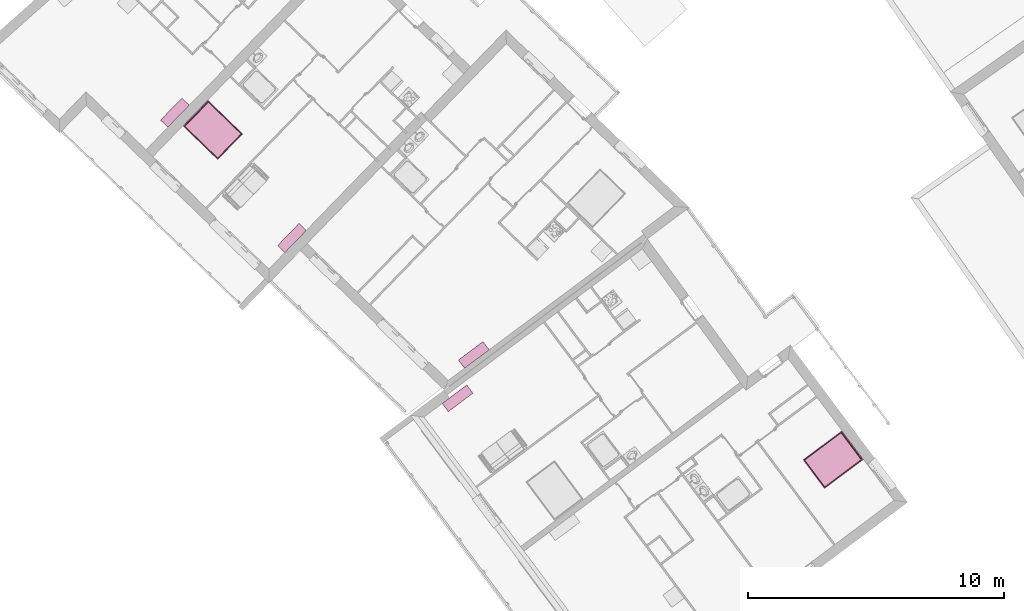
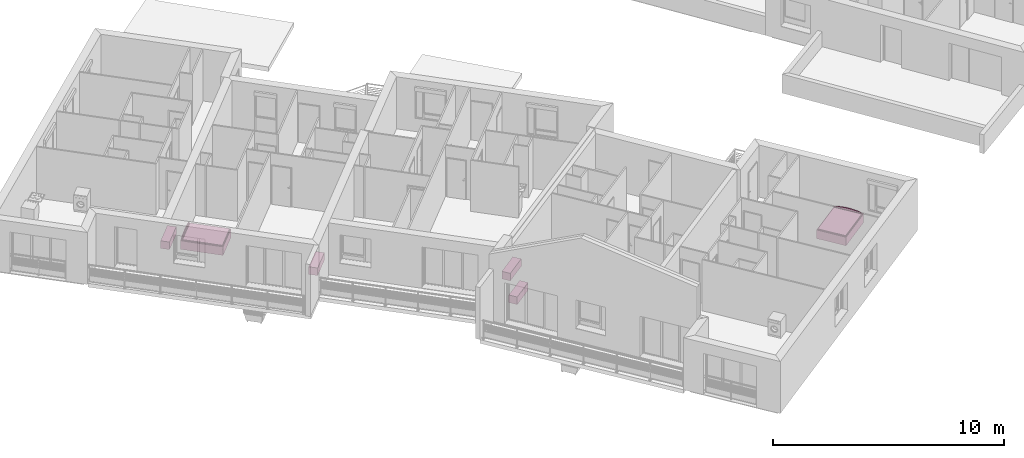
# One storey, part 97 of 121: 6 furnishings.
"""IFC2X3 building model written with IfcOpenShell, lengths in metres."""

from ifc_helpers import new_model, entity, si_unit, converted_unit, derived_unit, money_unit, direction, frame, origin_with_axes, place, context, subcontext, project, spatial, open_shell, faceted_brep, surface_model, source, transform, mapped, type_object, element, save


model = new_model("IFC2X3")

# Units and contexts
model_context = context("Model", 3, precision=1e-05, world=origin_with_axes(), true_north=direction((0.0, 1.0)))
body_context = subcontext(model_context, "Body", "Model", "MODEL_VIEW")
ifc_project = project(units=[si_unit("LENGTHUNIT", "METRE"), si_unit("AREAUNIT", "SQUARE_METRE"), si_unit("VOLUMEUNIT", "CUBIC_METRE"), converted_unit("PLANEANGLEUNIT", "DEGREE", entity("IfcPlaneAngleMeasure", 0.0174532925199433), si_unit("PLANEANGLEUNIT", "RADIAN"), dimensions=[0, 0, 0, 0, 0, 0, 0]), money_unit("CHF"), converted_unit("TIMEUNIT", "Year", entity("IfcTimeMeasure", 31557600.0), si_unit("TIMEUNIT", "SECOND"), dimensions=[0, 0, 1, 0, 0, 0, 0]), si_unit("MASSUNIT", "GRAM", prefix="KILO"), si_unit("THERMODYNAMICTEMPERATUREUNIT", "DEGREE_CELSIUS"), si_unit("LUMINOUSINTENSITYUNIT", "LUMEN"), si_unit("ENERGYUNIT", "JOULE", prefix="MEGA"), derived_unit("THERMALCONDUCTANCEUNIT", [(si_unit("POWERUNIT", "WATT"), 1), (si_unit("LENGTHUNIT", "METRE"), -1), (si_unit("THERMODYNAMICTEMPERATUREUNIT", "KELVIN"), -1)]), derived_unit("SPECIFICHEATCAPACITYUNIT", [(si_unit("ENERGYUNIT", "JOULE"), 1), (si_unit("MASSUNIT", "GRAM", prefix="KILO"), -1), (si_unit("THERMODYNAMICTEMPERATUREUNIT", "KELVIN"), -1)]), derived_unit("MASSDENSITYUNIT", [(si_unit("MASSUNIT", "GRAM", prefix="KILO"), 1), (si_unit("VOLUMEUNIT", "CUBIC_METRE"), -1)])], contexts=[model_context])

# Site, building, storey
site_placement = place(None, origin_with_axes())
site = spatial("IfcSite", under=ifc_project, at=site_placement, Name="Site", CompositionType="ELEMENT")
building_placement = place(site_placement, origin_with_axes())
building = spatial("IfcBuilding", under=site, at=building_placement, Name="Bâtiment", CompositionType="ELEMENT")
storey_placement = place(building_placement, frame((0.0, 0.0, 2.75), z_axis=(0.0, 0.0, 1.0), x_axis=(1.0, 0.0, 0.0)))
storey = spatial("IfcBuildingStorey", under=building, at=storey_placement, Name="Etage 1", CompositionType="ELEMENT", Elevation=2.75)

# Furnishings
furnishing_element_type_1 = type_object("IfcFurnishingElementType", Name="Meuble à plans 27")
shared_shape_1 = source(origin_with_axes(), body_context, "Body", "SurfaceModel", [
    surface_model("IfcShellBasedSurfaceModel", [(-1.18, 0.02, 0.0), (-1.18, 0.4, 0.0), (-0.02, 0.4, 0.0), (-0.02, 0.02, 0.0)], [open_shell([[[0, 1, 2, 3]]])]),
    faceted_brep([(0.0, 0.4, 0.0), (0.0, 0.0, 0.0), (-1.2, 0.0, 0.0), (-1.2, 0.4, 0.0), (0.0, 0.4, 0.4), (0.0, 0.0, 0.4), (-1.2, 0.0, 0.4), (-0.02, 0.0, 0.02), (-1.18, 0.0, 0.02), (-1.18, 0.0, 0.38), (-0.02, 0.0, 0.38), (-1.2, 0.4, 0.4), (-0.02, 0.4, 0.01999999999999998), (-0.02, 0.4, 0.38), (-1.18, 0.4, 0.38), (-1.18, 0.4, 0.01999999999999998)], [[[0, 1, 2, 3]], [[4, 5, 1, 0]], [[1, 5, 6, 2], [7, 8, 9, 10]], [[3, 2, 6, 11]], [[0, 3, 11, 4], [12, 13, 14, 15]], [[11, 6, 5, 4]], [[15, 8, 7, 12]], [[14, 9, 8, 15]], [[13, 10, 9, 14]], [[12, 7, 10, 13]]]),
    faceted_brep([(-1.18, 0.4, 0.01999999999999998), (-1.18, 0.4, 0.38), (-0.02, 0.4, 0.38), (-0.02, 0.4, 0.01999999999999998), (-1.18, 0.38, 0.01999999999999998), (-1.18, 0.3800000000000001, 0.38), (-0.02, 0.3800000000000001, 0.38), (-0.02, 0.38, 0.01999999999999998)], [[[0, 1, 2, 3]], [[0, 4, 5, 1]], [[1, 5, 6, 2]], [[2, 6, 7, 3]], [[3, 7, 4, 0]], [[7, 6, 5, 4]]]),
    faceted_brep([(-1.18, 0.0, 0.02), (-1.18, 0.38, 0.02), (-0.02, 0.38, 0.02), (-0.02, 0.0, 0.02), (-1.18, 0.0, 0.3750000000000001), (-1.18, 0.38, 0.3750000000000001), (-0.02, 0.38, 0.3750000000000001), (-0.02, 0.0, 0.3750000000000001)], [[[0, 1, 2, 3]], [[0, 4, 5, 1]], [[1, 5, 6, 2]], [[2, 6, 7, 3]], [[3, 7, 4, 0]], [[7, 6, 5, 4]]]),
])
furnishing_placement = place(storey_placement, frame((9530.692202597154, -1075.765288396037, 57.92018680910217), z_axis=(0.0, 0.0, 1.0), x_axis=(0.8011623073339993, 0.5984471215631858, 0.0)))
element("IfcFurnishingElement", 1, at=furnishing_placement, inside=storey, type_object=furnishing_element_type_1, Name="Obj.-376", context=body_context, shape_type="MappedRepresentation", body=[
    mapped(shared_shape_1, transform((0.0, 0.0, 0.0))),
])
shared_shape_2 = source(origin_with_axes(), body_context, "Body", "SurfaceModel", [
    surface_model("IfcShellBasedSurfaceModel", [(1.18, 0.02, 0.0), (0.02, 0.02, 0.0), (0.02, 0.4, 0.0), (1.18, 0.4, 0.0)], [open_shell([[[0, 1, 2, 3]]])]),
    faceted_brep([(0.0, 0.4, 0.0), (1.2, 0.4, 0.0), (1.2, 0.0, 0.0), (0.0, 0.0, 0.0), (0.0, 0.4, 0.4), (1.2, 0.4, 0.4), (0.02, 0.4, 0.01999999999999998), (1.18, 0.4, 0.01999999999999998), (1.18, 0.4, 0.38), (0.02, 0.4, 0.38), (1.2, 0.0, 0.4), (0.0, 0.0, 0.4), (0.02, 0.0, 0.02), (0.02, 0.0, 0.38), (1.18, 0.0, 0.38), (1.18, 0.0, 0.02)], [[[0, 1, 2, 3]], [[0, 4, 5, 1], [6, 7, 8, 9]], [[1, 5, 10, 2]], [[3, 2, 10, 11], [12, 13, 14, 15]], [[4, 0, 3, 11]], [[5, 4, 11, 10]], [[7, 6, 12, 15]], [[8, 7, 15, 14]], [[9, 8, 14, 13]], [[6, 9, 13, 12]]]),
    faceted_brep([(1.18, 0.4, 0.01999999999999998), (0.02, 0.4, 0.01999999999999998), (0.02, 0.4, 0.38), (1.18, 0.4, 0.38), (1.18, 0.38, 0.01999999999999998), (0.02, 0.38, 0.01999999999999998), (0.02, 0.3800000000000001, 0.38), (1.18, 0.3800000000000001, 0.38)], [[[0, 1, 2, 3]], [[1, 0, 4, 5]], [[2, 1, 5, 6]], [[3, 2, 6, 7]], [[0, 3, 7, 4]], [[5, 4, 7, 6]]]),
    faceted_brep([(1.18, 0.0, 0.02), (0.02, 0.0, 0.02), (0.02, 0.38, 0.02), (1.18, 0.38, 0.02), (1.18, 0.0, 0.3750000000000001), (0.02, 0.0, 0.3750000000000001), (0.02, 0.38, 0.3750000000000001), (1.18, 0.38, 0.3750000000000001)], [[[0, 1, 2, 3]], [[1, 0, 4, 5]], [[2, 1, 5, 6]], [[3, 2, 6, 7]], [[0, 3, 7, 4]], [[5, 4, 7, 6]]]),
])
for number, where, z_axis, x_axis, name in (
    (2, (9531.087260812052, -1073.74771034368, 57.92018680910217), (0.0, 0.0, 1.0), (-0.8011628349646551, -0.598446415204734, 0.0), "Obj.-376"),
    (3, (9523.890442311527, -1069.123414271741, 57.92018680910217), (0.0, 0.0, 1.0), (-0.6958617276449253, -0.7181757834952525, 0.0), "Obj.-376"),
    (4, (9519.311452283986, -1064.22088793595, 57.92018680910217), (0.0, 0.0, 1.0), (-0.6958610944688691, -0.7181763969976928, 0.0), "Obj.-376"),
):
    element("IfcFurnishingElement", number, at=place(storey_placement, frame(where, z_axis=z_axis, x_axis=x_axis)), inside=storey, type_object=furnishing_element_type_1, Name=name, context=body_context, shape_type="MappedRepresentation", body=[
        mapped(shared_shape_2, transform((0.0, 0.0, 0.0))),
    ])
furnishing_element_type_2 = type_object("IfcFurnishingElementType", Name="Lit double 01")
shared_shape_3 = source(origin_with_axes(), body_context, "Body", "Brep", [
    faceted_brep([(0.0, 1.895, 0.0), (1.4, 1.895, 0.0), (1.4, 1.865, 0.0), (0.0, 1.865, 0.0), (0.0, 1.895, 0.48), (0.276362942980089, 1.895, 0.5438448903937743), (0.558179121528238, 1.895, 0.5759741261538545), (0.8418208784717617, 1.895, 0.5759741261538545), (1.123637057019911, 1.895, 0.5438448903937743), (1.4, 1.895, 0.48), (1.4, 1.895, 0.4799), (1.4, 1.865, 0.4799), (1.4, 1.865, 0.48), (1.123637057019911, 1.865, 0.5438448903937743), (0.8418208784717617, 1.865, 0.5759741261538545), (0.558179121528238, 1.865, 0.5759741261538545), (0.276362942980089, 1.865, 0.5438448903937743), (0.0, 1.865, 0.48)], [[[0, 1, 2, 3]], [[0, 4, 5, 6, 7, 8, 9, 10, 1]], [[1, 10, 11, 2]], [[3, 2, 11, 12, 13, 14, 15, 16, 17]], [[4, 0, 3, 17]], [[5, 4, 17, 16]], [[6, 5, 16, 15]], [[7, 6, 15, 14]], [[8, 7, 14, 13]], [[9, 8, 13, 12]], [[10, 9, 12, 11]]]),
    faceted_brep([(1.4, 1.9, 0.48), (1.399999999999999, 1.9, 0.4999999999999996), (1.399999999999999, 1.86, 0.4999999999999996), (1.4, 1.86, 0.48), (1.123637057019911, 1.9, 0.5438448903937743), (0.8418208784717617, 1.9, 0.5759741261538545), (0.558179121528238, 1.9, 0.5759741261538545), (0.276362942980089, 1.9, 0.5438448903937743), (0.0, 1.9, 0.48), (0.0, 1.9, 0.4999), (0.0, 1.9, 0.5), (0.276362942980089, 1.9, 0.5638448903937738), (0.5581791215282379, 1.9, 0.5959741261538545), (0.8418208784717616, 1.9, 0.5959741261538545), (1.123637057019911, 1.9, 0.5638448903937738), (1.123637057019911, 1.86, 0.5638448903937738), (0.8418208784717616, 1.86, 0.5959741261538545), (0.5581791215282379, 1.86, 0.5959741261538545), (0.276362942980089, 1.86, 0.5638448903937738), (0.0, 1.86, 0.5), (0.0, 1.86, 0.4999), (0.0, 1.86, 0.48), (0.276362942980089, 1.86, 0.5438448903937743), (0.558179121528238, 1.86, 0.5759741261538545), (0.8418208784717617, 1.86, 0.5759741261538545), (1.123637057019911, 1.86, 0.5438448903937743)], [[[0, 1, 2, 3]], [[0, 4, 5, 6, 7, 8, 9, 10, 11, 12, 13, 14, 1]], [[1, 14, 15, 2]], [[3, 2, 15, 16, 17, 18, 19, 20, 21, 22, 23, 24, 25]], [[4, 0, 3, 25]], [[5, 4, 25, 24]], [[6, 5, 24, 23]], [[7, 6, 23, 22]], [[8, 7, 22, 21]], [[9, 8, 21, 20]], [[10, 9, 20, 19]], [[11, 10, 19, 18]], [[12, 11, 18, 17]], [[13, 12, 17, 16]], [[14, 13, 16, 15]]]),
    faceted_brep([(1.4, 0.0, 0.0), (0.0, 0.0, 0.0), (0.0, 1.865, 0.0), (1.4, 1.865, 0.0), (1.4, 0.0, 0.3), (0.0, 0.0, 0.3), (0.0, 1.865, 0.3), (1.4, 1.865, 0.3)], [[[0, 1, 2, 3]], [[1, 0, 4, 5]], [[2, 1, 5, 6]], [[3, 2, 6, 7]], [[0, 3, 7, 4]], [[5, 4, 7, 6]]]),
    faceted_brep([(0.0, 0.02, 0.43), (0.0, 1.845, 0.43), (0.002679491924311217, 1.855, 0.43), (0.009999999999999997, 1.862320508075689, 0.43), (0.02, 1.865, 0.43), (1.38, 1.865, 0.43), (1.39, 1.862320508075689, 0.43), (1.397320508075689, 1.855, 0.43), (1.4, 1.845, 0.43), (1.4, 0.02, 0.43), (1.397320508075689, 0.009999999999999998, 0.43), (1.39, 0.002679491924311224, 0.43), (1.38, 0.0, 0.43), (0.01999999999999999, 0.0, 0.43), (0.009999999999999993, 0.002679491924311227, 0.43), (0.002679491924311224, 0.01, 0.43), (-3.895163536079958e-10, 0.02000000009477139, 0.44), (-3.895163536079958e-10, 1.845000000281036, 0.44), (0.002679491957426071, 1.855000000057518, 0.44), (0.0100000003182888, 1.862320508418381, 0.44), (0.02000000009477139, 1.864999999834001, 0.44), (1.380000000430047, 1.864999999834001, 0.44), (1.39000000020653, 1.862320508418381, 0.44), (1.39732050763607, 1.855000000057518, 0.44), (1.399999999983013, 1.845000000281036, 0.44), (1.399999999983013, 0.02000000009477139, 0.44), (1.39732050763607, 0.0100000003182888, 0.44), (1.39000000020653, 0.002679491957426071, 0.44), (1.380000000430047, -3.895163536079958e-10, 0.44), (0.02000000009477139, -3.895163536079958e-10, 0.44), (0.0100000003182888, 0.002679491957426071, 0.44), (0.002679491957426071, 0.0100000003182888, 0.44), (0.002044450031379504, 0.02026915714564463, 0.4555291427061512), (0.002044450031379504, 1.844730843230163, 0.4555291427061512), (0.004512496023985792, 1.853941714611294, 0.4555291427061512), (0.01105828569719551, 1.860487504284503, 0.4555291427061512), (0.02026915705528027, 1.862955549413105, 0.4555291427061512), (1.379730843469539, 1.862955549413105, 0.4555291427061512), (1.388941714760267, 1.860487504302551, 0.4555291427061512), (1.395487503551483, 1.853941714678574, 0.4555291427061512), (1.397955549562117, 1.844730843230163, 0.4555291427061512), (1.397955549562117, 0.02026915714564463, 0.4555291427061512), (1.395487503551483, 0.01105828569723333, 0.4555291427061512), (1.388941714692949, 0.004512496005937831, 0.4555291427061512), (1.379730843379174, 0.002044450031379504, 0.4555291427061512), (0.02026915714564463, 0.002044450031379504, 0.4555291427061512), (0.01105828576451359, 0.004512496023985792, 0.4555291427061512), (0.004512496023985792, 0.01105828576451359, 0.4555291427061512), (0.01757359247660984, 0.02231360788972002, 0.4824264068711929), (0.01757359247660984, 1.842686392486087, 0.4824264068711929), (0.01843554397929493, 1.845903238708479, 0.4824264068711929), (0.01909676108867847, 1.846564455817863, 0.4824264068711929), (0.02231360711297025, 1.847426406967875, 0.4824264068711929), (1.377686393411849, 1.847426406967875, 0.4824264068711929), (1.380903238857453, 1.846564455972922, 0.4824264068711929), (1.381564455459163, 1.845903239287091, 0.4824264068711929), (1.382426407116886, 1.842686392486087, 0.4824264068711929), (1.382426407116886, 0.02231360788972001, 0.4824264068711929), (1.381564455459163, 0.01909676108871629, 0.4824264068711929), (1.380903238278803, 0.01843554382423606, 0.4824264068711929), (1.377686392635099, 0.01757359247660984, 0.4824264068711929), (0.02231360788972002, 0.01757359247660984, 0.4824264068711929), (0.01909676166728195, 0.01843554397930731, 0.4824264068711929), (0.01843554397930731, 0.01909676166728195, 0.4824264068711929), (0.02303225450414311, 0.02303225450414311, 0.4855779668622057), (0.04447085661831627, 0.04447085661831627, 0.4979555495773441), (0.04447085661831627, 1.820529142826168, 0.4979555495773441), (0.02303225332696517, 1.841967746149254, 0.48557796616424), (0.02000000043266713, 1.844999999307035, 0.4834338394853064), (1.35552914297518, 1.820529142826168, 0.4979555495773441), (1.376967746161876, 1.841967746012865, 0.4855779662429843), (1.380000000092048, 1.845000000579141, 0.4834338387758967), (1.35552914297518, 0.04447085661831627, 0.4979555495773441), (1.376967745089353, 0.02303225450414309, 0.4855779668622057), (1.379999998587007, 0.02000000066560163, 0.4834338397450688), (0.02000000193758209, 0.02000000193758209, 0.4834338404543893), (0.05999999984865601, 0.05999999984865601, 0.5000000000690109), (0.05999999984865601, 1.804999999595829, 0.5000000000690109), (1.33999999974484, 1.804999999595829, 0.5000000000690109), (1.33999999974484, 0.05999999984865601, 0.5000000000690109)], [[[0, 1, 2, 3, 4, 5, 6, 7, 8, 9, 10, 11, 12, 13, 14, 15]], [[1, 0, 16, 17]], [[2, 1, 17, 18]], [[3, 2, 18, 19]], [[4, 3, 19, 20]], [[5, 4, 20, 21]], [[6, 5, 21, 22]], [[7, 6, 22, 23]], [[8, 7, 23, 24]], [[9, 8, 24, 25]], [[10, 9, 25, 26]], [[11, 10, 26, 27]], [[12, 11, 27, 28]], [[13, 12, 28, 29]], [[14, 13, 29, 30]], [[15, 14, 30, 31]], [[0, 15, 31, 16]], [[17, 16, 32, 33]], [[18, 17, 33, 34]], [[19, 18, 34, 35]], [[20, 19, 35, 36]], [[21, 20, 36, 37]], [[22, 21, 37, 38]], [[23, 22, 38, 39]], [[24, 23, 39, 40]], [[25, 24, 40, 41]], [[26, 25, 41, 42]], [[27, 26, 42, 43]], [[28, 27, 43, 44]], [[29, 28, 44, 45]], [[30, 29, 45, 46]], [[31, 30, 46, 47]], [[16, 31, 47, 32]], [[33, 32, 48, 49]], [[34, 33, 49, 50]], [[35, 34, 50, 51]], [[36, 35, 51, 52]], [[37, 36, 52, 53]], [[38, 37, 53, 54]], [[39, 38, 54, 55]], [[40, 39, 55, 56]], [[41, 40, 56, 57]], [[42, 41, 57, 58]], [[43, 42, 58, 59]], [[44, 43, 59, 60]], [[45, 44, 60, 61]], [[46, 45, 61, 62]], [[47, 46, 62, 63]], [[32, 47, 63, 48]], [[49, 48, 64, 65, 66, 67]], [[50, 49, 67, 68]], [[51, 50, 68]], [[52, 51, 68, 67]], [[53, 52, 67, 66, 69, 70]], [[54, 53, 70, 71]], [[55, 54, 71]], [[56, 55, 71, 70]], [[57, 56, 70, 69, 72, 73]], [[58, 57, 73, 74]], [[59, 58, 74]], [[60, 59, 74, 73]], [[61, 60, 73, 72, 65, 64]], [[62, 61, 64, 75]], [[63, 62, 75]], [[48, 63, 75, 64]], [[66, 65, 76, 77]], [[69, 66, 77, 78]], [[72, 69, 78, 79]], [[65, 72, 79, 76]], [[78, 77, 76, 79]]]),
    faceted_brep([(0.0, 0.02000000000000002, 0.3099999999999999), (-3.895163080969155e-10, 0.02000000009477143, 0.2999999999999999), (0.002679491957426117, 0.01000000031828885, 0.2999999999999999), (0.002679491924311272, 0.01000000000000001, 0.3099999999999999), (0.0, 1.845, 0.3099999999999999), (-3.895163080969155e-10, 1.845000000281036, 0.2999999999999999), (0.002679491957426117, 1.855000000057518, 0.2999999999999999), (0.01000000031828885, 1.862320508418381, 0.2999999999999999), (0.02000000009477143, 1.864999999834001, 0.2999999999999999), (1.380000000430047, 1.864999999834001, 0.2999999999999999), (1.39000000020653, 1.862320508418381, 0.2999999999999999), (1.39732050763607, 1.855000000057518, 0.2999999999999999), (1.399999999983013, 1.845000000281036, 0.2999999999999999), (1.399999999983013, 0.02000000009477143, 0.2999999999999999), (1.39732050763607, 0.01000000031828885, 0.2999999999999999), (1.39000000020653, 0.002679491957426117, 0.2999999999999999), (1.380000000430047, -3.895163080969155e-10, 0.2999999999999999), (0.02000000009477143, -3.895163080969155e-10, 0.2999999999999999), (0.01000000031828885, 0.002679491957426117, 0.2999999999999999), (0.01000000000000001, 0.002679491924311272, 0.3099999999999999), (0.02000000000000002, 0.0, 0.3099999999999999), (1.38, 0.0, 0.3099999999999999), (1.39, 0.002679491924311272, 0.3099999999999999), (1.397320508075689, 0.01000000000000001, 0.3099999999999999), (1.4, 0.02000000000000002, 0.3099999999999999), (1.4, 1.845, 0.3099999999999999), (1.397320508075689, 1.855, 0.3099999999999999), (1.39, 1.862320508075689, 0.3099999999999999), (1.38, 1.865, 0.3099999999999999), (0.02000000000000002, 1.865, 0.3099999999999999), (0.01000000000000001, 1.862320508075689, 0.3099999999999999), (0.002679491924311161, 1.855, 0.3099999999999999)], [[[0, 1, 2, 3]], [[1, 0, 4, 5]], [[2, 1, 5, 6, 7, 8, 9, 10, 11, 12, 13, 14, 15, 16, 17, 18]], [[3, 2, 18, 19]], [[3, 19, 20, 21, 22, 23, 24, 25, 26, 27, 28, 29, 30, 31, 4, 0]], [[5, 4, 31, 6]], [[6, 31, 30, 7]], [[7, 30, 29, 8]], [[8, 29, 28, 9]], [[27, 10, 9, 28]], [[10, 27, 26, 11]], [[11, 26, 25, 12]], [[24, 13, 12, 25]], [[23, 14, 13, 24]], [[22, 15, 14, 23]], [[21, 16, 15, 22]], [[20, 17, 16, 21]], [[18, 17, 20, 19]]]),
    faceted_brep([(0.0, 0.02, 0.3099999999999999), (0.002679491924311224, 0.01, 0.3099999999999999), (0.002679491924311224, 0.01, 0.4299999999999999), (0.0, 0.02, 0.4299999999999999), (0.0, 1.845, 0.3099999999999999), (0.002679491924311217, 1.855, 0.3099999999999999), (0.009999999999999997, 1.862320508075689, 0.3099999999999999), (0.02, 1.865, 0.3099999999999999), (1.38, 1.865, 0.3099999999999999), (1.39, 1.862320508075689, 0.3099999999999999), (1.397320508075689, 1.855, 0.3099999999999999), (1.4, 1.845, 0.3099999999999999), (1.4, 0.02, 0.3099999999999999), (1.397320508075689, 0.009999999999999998, 0.3099999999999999), (1.39, 0.002679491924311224, 0.3099999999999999), (1.38, 0.0, 0.3099999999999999), (0.01999999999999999, 0.0, 0.3099999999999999), (0.009999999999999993, 0.002679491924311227, 0.3099999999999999), (0.009999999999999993, 0.002679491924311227, 0.4299999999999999), (0.01999999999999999, 0.0, 0.4299999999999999), (1.38, 0.0, 0.4299999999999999), (1.39, 0.002679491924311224, 0.4299999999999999), (1.397320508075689, 0.009999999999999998, 0.4299999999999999), (1.4, 0.02, 0.4299999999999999), (1.4, 1.845, 0.4299999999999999), (1.397320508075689, 1.855, 0.4299999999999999), (1.39, 1.862320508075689, 0.4299999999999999), (1.38, 1.865, 0.4299999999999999), (0.02, 1.865, 0.4299999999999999), (0.009999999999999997, 1.862320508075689, 0.4299999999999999), (0.002679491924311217, 1.855, 0.4299999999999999), (0.0, 1.845, 0.4299999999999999)], [[[0, 1, 2, 3]], [[0, 4, 5, 6, 7, 8, 9, 10, 11, 12, 13, 14, 15, 16, 17, 1]], [[1, 17, 18, 2]], [[3, 2, 18, 19, 20, 21, 22, 23, 24, 25, 26, 27, 28, 29, 30, 31]], [[4, 0, 3, 31]], [[5, 4, 31, 30]], [[6, 5, 30, 29]], [[7, 6, 29, 28]], [[8, 7, 28, 27]], [[9, 8, 27, 26]], [[10, 9, 26, 25]], [[11, 10, 25, 24]], [[12, 11, 24, 23]], [[13, 12, 23, 22]], [[14, 13, 22, 21]], [[15, 14, 21, 20]], [[16, 15, 20, 19]], [[17, 16, 19, 18]]]),
])
for number, where, z_axis, x_axis, name in (
    (5, (9543.60523484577, -1078.368665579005, 57.7), (0.0, 0.0, 1.0), (0.5986846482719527, -0.8009848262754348, 0.0), "Obj.-002"),
    (6, (9520.712023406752, -1066.626744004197, 57.7), (0.0, 0.0, 1.0), (0.6956471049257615, 0.7183836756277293, 0.0), "Obj.-002"),
):
    element("IfcFurnishingElement", number, at=place(storey_placement, frame(where, z_axis=z_axis, x_axis=x_axis)), inside=storey, type_object=furnishing_element_type_2, Name=name, context=body_context, shape_type="MappedRepresentation", body=[
        mapped(shared_shape_3, transform((0.0, 0.0, 0.0))),
    ])

save(model, "model.ifc")
